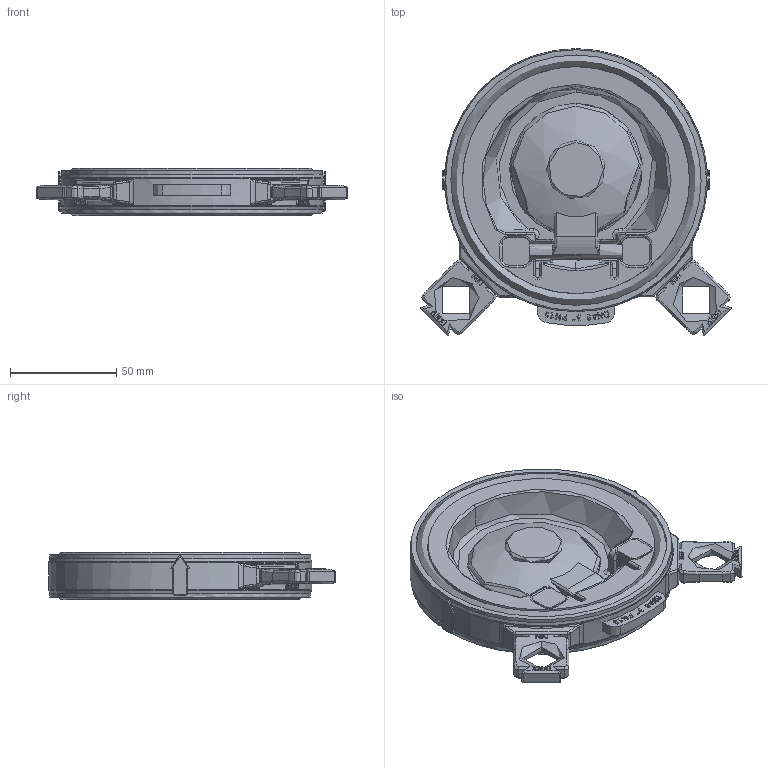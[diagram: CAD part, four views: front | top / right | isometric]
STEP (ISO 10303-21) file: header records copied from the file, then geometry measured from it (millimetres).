
FILE_DESCRIPTION(/* description */ ('Valvola a clapet d.90 - corpo','CAx-IF Rec.Pracs.---Representation and Presentation of Product Manufacturing Information (PMI)---3.8---2014-02-18'),/* implementation_level */ '2;1');
FILE_NAME(/* name */ 'C:\Users\POLYPIPE\Desktop\DATASET INVENTOR\LIBRERIA EFFAST\3D_VALVOLE\3D_VALVOLE A CLAPET\3D_CDRCKD0900 (00).stp',/* time_stamp */ '2018-04-20T11:51:12+02:00',/* author */ ('POLYPIPE'),/* organization */ ('Polypipe Italia'),/* preprocessor_version */ 'ST-DEVELOPER v16.1',/* originating_system */ 'Autodesk Inventor 2016',/* authorisation */ '');
FILE_SCHEMA (('AP242_MANAGED_MODEL_BASED_3D_ENGINEERING_MIM_LF { 1 0 10303 442 1 1 4 }'));
Length unit declared in the file: millimetre
Products named in the file (7): CDRCCK0900 (00); CDROTK0900 (00); CDRCCK0900 - tappi (00); CDRCCK0900 - asole (00); OR6425; OR4212; CDRCKD0900 (00)
Assembly tree (9 placements, depth 2):
  CDRCKD0900 (00)
    CDRCCK0900 (00)
    CDROTK0900 (00)
    CDRCCK0900 - tappi (00)  x2
    CDRCCK0900 - asole (00)  x2
    OR6425  x2
    OR4212
Bounding box: 146.32 x 135.16 x 22.26 mm (x, y, z)
Volume: 167866 mm3; surface area: 72960 mm2
Topology: 9 solids, 9 shells, 1218 faces, 3280 edges, 2046 vertices
Faces by surface type: bspline 515, plane 346, cylinder 241, torus 72, cone 22, sphere 22
Full cylindrical faces by diameter (mm): 7 x1, 18 x2, 58 x1, 107 x2, 118 x2, 123 x2
Entity records: 72291 total; most frequent: CARTESIAN_POINT 48348, ORIENTED_EDGE 5282, DIRECTION 3868, EDGE_CURVE 2641, VERTEX_POINT 1688, AXIS2_PLACEMENT_3D 1450, EDGE_LOOP 1087, STYLED_ITEM 1026
